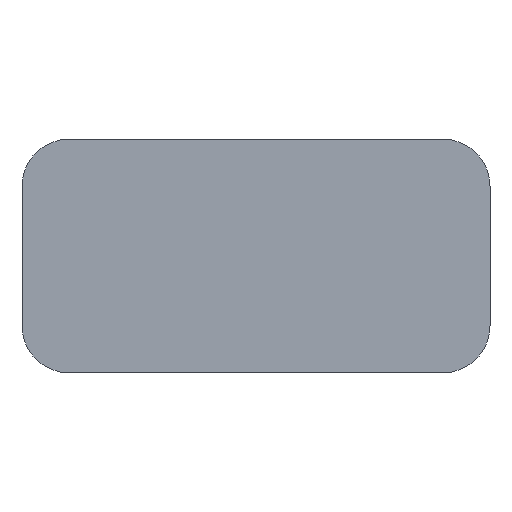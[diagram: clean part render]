
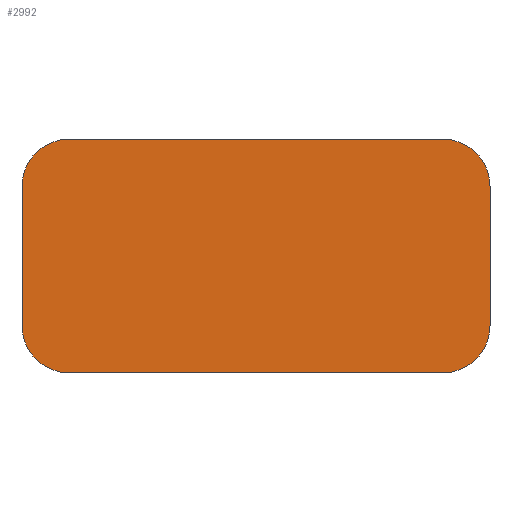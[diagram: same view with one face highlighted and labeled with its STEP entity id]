
A CAD part, top view. The second image highlights one B-rep face of the part: STEP entity #2992.
In plain terms, the highlighted planar face has unit normal (0, 0, 1).
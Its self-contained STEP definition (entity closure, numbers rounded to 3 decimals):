
#57 = VERTEX_POINT ( 'NONE', #2499 ) ;
#58 = VERTEX_POINT ( 'NONE', #2500 ) ;
#117 = VERTEX_POINT ( 'NONE', #2558 ) ;
#118 = VERTEX_POINT ( 'NONE', #2559 ) ;
#128 = VERTEX_POINT ( 'NONE', #2569 ) ;
#130 = VERTEX_POINT ( 'NONE', #2571 ) ;
#131 = VERTEX_POINT ( 'NONE', #2572 ) ;
#132 = VERTEX_POINT ( 'NONE', #2573 ) ;
#270 = EDGE_LOOP ( 'NONE', ( #3291, #3249, #2435, #3289, #2436, #2437, #3248, #3247 ) ) ;
#1951 = CIRCLE ( 'NONE', #6769, 100. ) ;
#1952 = CIRCLE ( 'NONE', #6766, 100. ) ;
#1953 = CIRCLE ( 'NONE', #6775, 100. ) ;
#1954 = CIRCLE ( 'NONE', #6777, 100. ) ;
#2435 = ORIENTED_EDGE ( 'NONE', *, *, #2917, .T. ) ;
#2436 = ORIENTED_EDGE ( 'NONE', *, *, #2912, .T. ) ;
#2437 = ORIENTED_EDGE ( 'NONE', *, *, #2910, .T. ) ;
#2499 = CARTESIAN_POINT ( 'NONE',  ( 399., 249., 9. ) ) ;
#2500 = CARTESIAN_POINT ( 'NONE',  ( 499., -149., 9. ) ) ;
#2558 = CARTESIAN_POINT ( 'NONE',  ( 399., -249., 9. ) ) ;
#2559 = CARTESIAN_POINT ( 'NONE',  ( -399., -249., 9. ) ) ;
#2569 = CARTESIAN_POINT ( 'NONE',  ( -499., -149., 9. ) ) ;
#2571 = CARTESIAN_POINT ( 'NONE',  ( -399., 249., 9. ) ) ;
#2572 = CARTESIAN_POINT ( 'NONE',  ( -499., 149., 9. ) ) ;
#2573 = CARTESIAN_POINT ( 'NONE',  ( 499., 149., 9. ) ) ;
#2903 = EDGE_CURVE ( 'NONE', #128, #118, #1951, .T. ) ;
#2904 = EDGE_CURVE ( 'NONE', #131, #128, #9432, .T. ) ;
#2906 = EDGE_CURVE ( 'NONE', #130, #131, #1952, .T. ) ;
#2908 = EDGE_CURVE ( 'NONE', #57, #130, #9442, .T. ) ;
#2910 = EDGE_CURVE ( 'NONE', #132, #57, #1953, .T. ) ;
#2912 = EDGE_CURVE ( 'NONE', #58, #132, #9452, .T. ) ;
#2914 = EDGE_CURVE ( 'NONE', #117, #58, #1954, .T. ) ;
#2917 = EDGE_CURVE ( 'NONE', #118, #117, #9464, .T. ) ;
#2992 = ADVANCED_FACE ( 'NONE', ( #6944 ), #9798, .T. ) ;
#3247 = ORIENTED_EDGE ( 'NONE', *, *, #2906, .T. ) ;
#3248 = ORIENTED_EDGE ( 'NONE', *, *, #2908, .T. ) ;
#3249 = ORIENTED_EDGE ( 'NONE', *, *, #2903, .T. ) ;
#3289 = ORIENTED_EDGE ( 'NONE', *, *, #2914, .T. ) ;
#3291 = ORIENTED_EDGE ( 'NONE', *, *, #2904, .T. ) ;
#6766 = AXIS2_PLACEMENT_3D ( 'NONE', #9436, #9437, #9438 ) ;
#6769 = AXIS2_PLACEMENT_3D ( 'NONE', #9428, #9429, #9430 ) ;
#6774 = VECTOR ( 'NONE', #9434, 1000. ) ;
#6775 = AXIS2_PLACEMENT_3D ( 'NONE', #9446, #9447, #9448 ) ;
#6776 = VECTOR ( 'NONE', #9444, 1000. ) ;
#6777 = AXIS2_PLACEMENT_3D ( 'NONE', #9456, #9457, #9458 ) ;
#6778 = VECTOR ( 'NONE', #9454, 1000. ) ;
#6780 = VECTOR ( 'NONE', #9466, 1000. ) ;
#6944 = FACE_OUTER_BOUND ( 'NONE', #270, .T. ) ;
#6950 = AXIS2_PLACEMENT_3D ( 'NONE', #9799, #9800, #9801 ) ;
#9428 = CARTESIAN_POINT ( 'NONE',  ( -399., -149., 9. ) ) ;
#9429 = DIRECTION ( 'NONE',  ( 0., 0., 1. ) ) ;
#9430 = DIRECTION ( 'NONE',  ( 1., 0., 0. ) ) ;
#9432 = LINE ( 'NONE', #9433, #6774 ) ;
#9433 = CARTESIAN_POINT ( 'NONE',  ( -499., -253.98, 9. ) ) ;
#9434 = DIRECTION ( 'NONE',  ( 0., -1., 0. ) ) ;
#9436 = CARTESIAN_POINT ( 'NONE',  ( -399., 149., 9. ) ) ;
#9437 = DIRECTION ( 'NONE',  ( 0., 0., 1. ) ) ;
#9438 = DIRECTION ( 'NONE',  ( 0., -1., 0. ) ) ;
#9442 = LINE ( 'NONE', #9443, #6776 ) ;
#9443 = CARTESIAN_POINT ( 'NONE',  ( -508.98, 249., 9. ) ) ;
#9444 = DIRECTION ( 'NONE',  ( -1., 0., 0. ) ) ;
#9446 = CARTESIAN_POINT ( 'NONE',  ( 399., 149., 9. ) ) ;
#9447 = DIRECTION ( 'NONE',  ( 0., 0., 1. ) ) ;
#9448 = DIRECTION ( 'NONE',  ( 0., -1., 0. ) ) ;
#9452 = LINE ( 'NONE', #9453, #6778 ) ;
#9453 = CARTESIAN_POINT ( 'NONE',  ( 499., -253.98, 9. ) ) ;
#9454 = DIRECTION ( 'NONE',  ( 0., 1., 0. ) ) ;
#9456 = CARTESIAN_POINT ( 'NONE',  ( 399., -149., 9. ) ) ;
#9457 = DIRECTION ( 'NONE',  ( 0., 0., 1. ) ) ;
#9458 = DIRECTION ( 'NONE',  ( 0., -1., 0. ) ) ;
#9464 = LINE ( 'NONE', #9465, #6780 ) ;
#9465 = CARTESIAN_POINT ( 'NONE',  ( -508.98, -249., 9. ) ) ;
#9466 = DIRECTION ( 'NONE',  ( 1., 0., 0. ) ) ;
#9798 = PLANE ( 'NONE',  #6950 ) ;
#9799 = CARTESIAN_POINT ( 'NONE',  ( -508.98, -253.98, 9. ) ) ;
#9800 = DIRECTION ( 'NONE',  ( 0., 0., 1. ) ) ;
#9801 = DIRECTION ( 'NONE',  ( 1., 0., 0. ) ) ;
